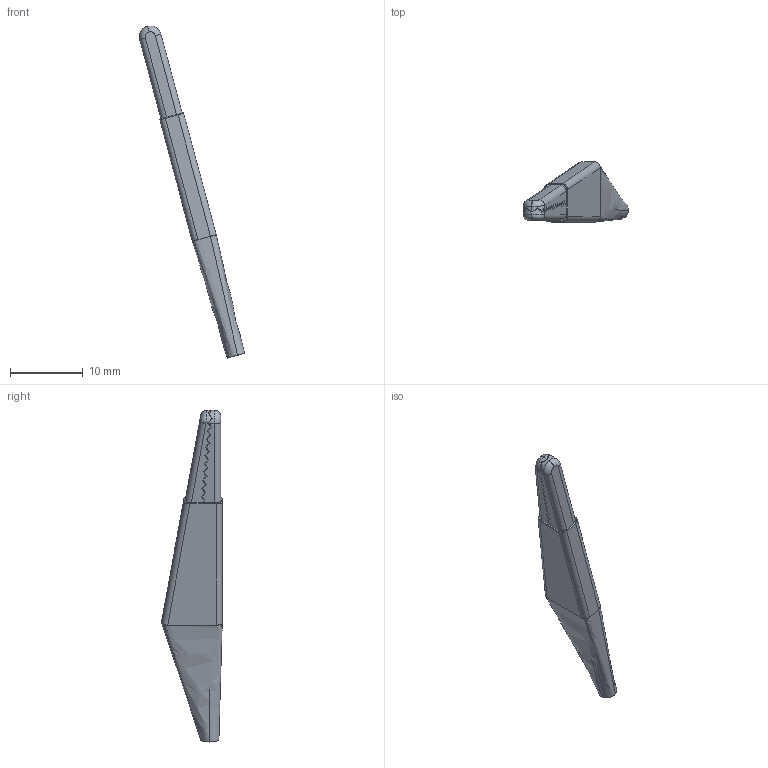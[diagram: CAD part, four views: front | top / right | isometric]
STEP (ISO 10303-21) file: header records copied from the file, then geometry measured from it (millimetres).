
FILE_DESCRIPTION (( 'STEP AP214' ), '1' );
FILE_NAME ('Alligator Clip Red Sleeve.STEP', '2024-09-20T18:04:36', ( '' ), ( '' ), 'SwSTEP 2.0', 'SolidWorks 2022', '' );
FILE_SCHEMA (( 'AUTOMOTIVE_DESIGN' ));
Length unit declared in the file: millimetre
Products named in the file (1): Alligator Clip Red Sleeve
Bounding box: 14.48 x 8.33 x 45.77 mm (x, y, z)
Volume: 296.4 mm3; surface area: 2115.9 mm2
Topology: 4 solids, 4 shells, 268 faces, 702 edges, 440 vertices
Faces by surface type: plane 184, bspline 40, cylinder 38, torus 6
Entity records: 11684 total; most frequent: CARTESIAN_POINT 5125, ORIENTED_EDGE 1404, DIRECTION 1109, EDGE_CURVE 702, LINE 527, VECTOR 527, VERTEX_POINT 440, AXIS2_PLACEMENT_3D 291
